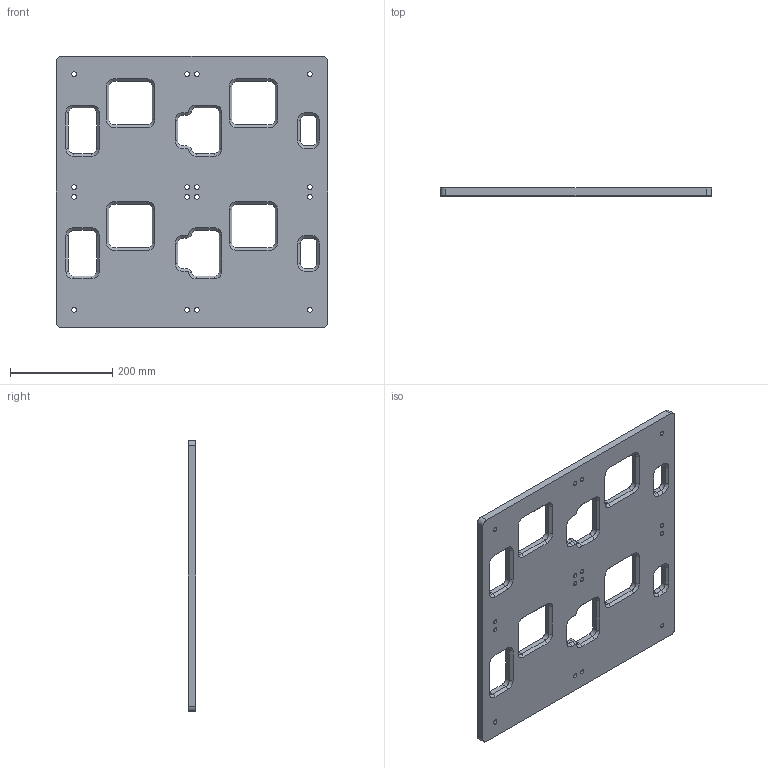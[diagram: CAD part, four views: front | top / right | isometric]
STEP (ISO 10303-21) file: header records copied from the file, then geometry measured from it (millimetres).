
FILE_DESCRIPTION (( 'STEP AP214' ), '1' );
FILE_NAME ('S3-AS-4.8 Flyway Mounting Plate Example 2X2 Rev1, Blind Hole Option.STEP', '2025-08-13T23:07:05', ( '' ), ( '' ), 'SwSTEP 2.0', 'SolidWorks 2022', '' );
FILE_SCHEMA (( 'AUTOMOTIVE_DESIGN' ));
Length unit declared in the file: millimetre
Products named in the file (1): S3-AS-4.8 Flyway Mounting Plate Example 2X2 Rev1, Blind Hole Option
Bounding box: 530 x 15 x 530 mm (x, y, z)
Volume: 3337230.3 mm3; surface area: 522789.4 mm2
Topology: 1 solids, 1 shells, 266 faces, 660 edges, 404 vertices
Faces by surface type: plane 102, cylinder 100, cone 64
Entity records: 7982 total; most frequent: DIRECTION 1458, CARTESIAN_POINT 1331, ORIENTED_EDGE 1320, EDGE_CURVE 660, AXIS2_PLACEMENT_3D 531, VERTEX_POINT 404, LINE 396, VECTOR 396
